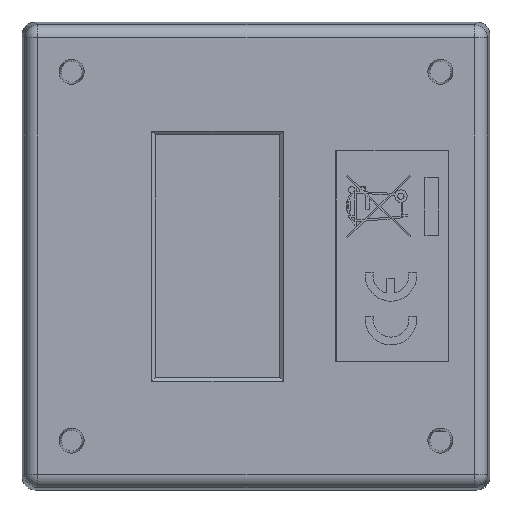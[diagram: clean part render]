
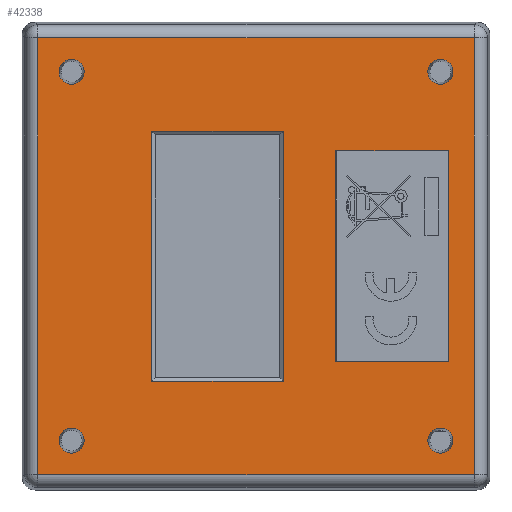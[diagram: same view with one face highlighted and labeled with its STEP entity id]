
A CAD part, front view. The second image highlights one B-rep face of the part: STEP entity #42338.
In plain terms, the highlighted planar face has unit normal (0, -1, 0) as drawn and (0, 0, -1) by its records, which use the part's own axes.
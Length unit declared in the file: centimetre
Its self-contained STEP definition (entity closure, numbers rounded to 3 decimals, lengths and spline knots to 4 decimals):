
#20597=VECTOR('',#46143,1.);
#20600=VECTOR('',#46147,1.);
#20603=VECTOR('',#46151,1.);
#20606=VECTOR('',#46155,1.);
#20736=VECTOR('',#46349,1.);
#20739=VECTOR('',#46353,1.);
#20742=VECTOR('',#46357,1.);
#20745=VECTOR('',#46361,1.);
#20906=VECTOR('',#46594,1.);
#20907=VECTOR('',#46595,1.);
#20908=VECTOR('',#46596,1.);
#20909=VECTOR('',#46597,1.);
#23383=LINE('',#52625,#20597);
#23386=LINE('',#52631,#20600);
#23389=LINE('',#52637,#20603);
#23392=LINE('',#52642,#20606);
#23522=LINE('',#52985,#20736);
#23525=LINE('',#52991,#20739);
#23528=LINE('',#52997,#20742);
#23531=LINE('',#53002,#20745);
#23692=LINE('',#54077,#20906);
#23693=LINE('',#54080,#20907);
#23694=LINE('',#54082,#20908);
#23695=LINE('',#54084,#20909);
#25972=PLANE('',#43623);
#27093=VERTEX_POINT('',#52624);
#27094=VERTEX_POINT('',#52626);
#27096=VERTEX_POINT('',#52632);
#27098=VERTEX_POINT('',#52638);
#27193=VERTEX_POINT('',#52984);
#27194=VERTEX_POINT('',#52986);
#27196=VERTEX_POINT('',#52992);
#27198=VERTEX_POINT('',#52998);
#27319=VERTEX_POINT('',#54070);
#27320=VERTEX_POINT('',#54072);
#27321=VERTEX_POINT('',#54074);
#27322=VERTEX_POINT('',#54076);
#27323=VERTEX_POINT('',#54078);
#27324=VERTEX_POINT('',#54079);
#27325=VERTEX_POINT('',#54081);
#27326=VERTEX_POINT('',#54083);
#28962=CIRCLE('',#43624,0.1209);
#28963=CIRCLE('',#43625,0.1209);
#28964=CIRCLE('',#43626,0.1209);
#28965=CIRCLE('',#43627,0.1209);
#29764=EDGE_CURVE('',#27094,#27093,#23383,.T.);
#29767=EDGE_CURVE('',#27096,#27094,#23386,.T.);
#29770=EDGE_CURVE('',#27098,#27096,#23389,.T.);
#29773=EDGE_CURVE('',#27093,#27098,#23392,.T.);
#29913=EDGE_CURVE('',#27194,#27193,#23522,.F.);
#29916=EDGE_CURVE('',#27196,#27194,#23525,.F.);
#29919=EDGE_CURVE('',#27198,#27196,#23528,.F.);
#29922=EDGE_CURVE('',#27193,#27198,#23531,.F.);
#30103=EDGE_CURVE('',#27319,#27319,#28962,.F.);
#30104=EDGE_CURVE('',#27320,#27320,#28963,.F.);
#30105=EDGE_CURVE('',#27321,#27321,#28964,.F.);
#30106=EDGE_CURVE('',#27322,#27322,#28965,.F.);
#30107=EDGE_CURVE('',#27323,#27324,#23692,.T.);
#30108=EDGE_CURVE('',#27325,#27323,#23693,.T.);
#30109=EDGE_CURVE('',#27326,#27325,#23694,.T.);
#30110=EDGE_CURVE('',#27324,#27326,#23695,.T.);
#34235=ORIENTED_EDGE('',*,*,#29764,.T.);
#34236=ORIENTED_EDGE('',*,*,#29773,.T.);
#34237=ORIENTED_EDGE('',*,*,#29770,.T.);
#34238=ORIENTED_EDGE('',*,*,#29767,.T.);
#34239=ORIENTED_EDGE('',*,*,#30103,.T.);
#34240=ORIENTED_EDGE('',*,*,#30104,.T.);
#34241=ORIENTED_EDGE('',*,*,#30105,.T.);
#34242=ORIENTED_EDGE('',*,*,#30106,.T.);
#34243=ORIENTED_EDGE('',*,*,#30107,.F.);
#34244=ORIENTED_EDGE('',*,*,#30108,.F.);
#34245=ORIENTED_EDGE('',*,*,#30109,.F.);
#34246=ORIENTED_EDGE('',*,*,#30110,.F.);
#34247=ORIENTED_EDGE('',*,*,#29913,.T.);
#34248=ORIENTED_EDGE('',*,*,#29922,.T.);
#34249=ORIENTED_EDGE('',*,*,#29919,.T.);
#34250=ORIENTED_EDGE('',*,*,#29916,.T.);
#39538=EDGE_LOOP('',(#34235,#34236,#34237,#34238));
#39539=EDGE_LOOP('',(#34239));
#39540=EDGE_LOOP('',(#34240));
#39541=EDGE_LOOP('',(#34241));
#39542=EDGE_LOOP('',(#34242));
#39543=EDGE_LOOP('',(#34243,#34244,#34245,#34246));
#39544=EDGE_LOOP('',(#34247,#34248,#34249,#34250));
#40957=FACE_BOUND('',#39538,.T.);
#40958=FACE_BOUND('',#39539,.T.);
#40959=FACE_BOUND('',#39540,.T.);
#40960=FACE_BOUND('',#39541,.T.);
#40961=FACE_BOUND('',#39542,.T.);
#40962=FACE_BOUND('',#39543,.T.);
#40963=FACE_BOUND('',#39544,.T.);
#42338=ADVANCED_FACE('',(#40957,#40958,#40959,#40960,#40961,#40962,#40963),
#25972,.F.);
#43623=AXIS2_PLACEMENT_3D('',#54068,#46585,$);
#43624=AXIS2_PLACEMENT_3D('',#54069,#46586,#46587);
#43625=AXIS2_PLACEMENT_3D('',#54071,#46588,#46589);
#43626=AXIS2_PLACEMENT_3D('',#54073,#46590,#46591);
#43627=AXIS2_PLACEMENT_3D('',#54075,#46592,#46593);
#46143=DIRECTION('',(1.,0.,0.));
#46147=DIRECTION('',(0.,-1.,0.));
#46151=DIRECTION('',(-1.,0.,0.));
#46155=DIRECTION('',(0.,1.,0.));
#46349=DIRECTION('',(-1.,0.,0.));
#46353=DIRECTION('',(0.,1.,0.));
#46357=DIRECTION('',(1.,0.,0.));
#46361=DIRECTION('',(0.,-1.,0.));
#46585=DIRECTION('',(0.,0.,1.));
#46586=DIRECTION('',(0.,0.,-1.));
#46587=DIRECTION('',(-0.121,0.,0.));
#46588=DIRECTION('',(0.,0.,-1.));
#46589=DIRECTION('',(-0.121,0.,0.));
#46590=DIRECTION('',(0.,0.,-1.));
#46591=DIRECTION('',(-0.121,0.,0.));
#46592=DIRECTION('',(0.,0.,-1.));
#46593=DIRECTION('',(-0.121,0.,0.));
#46594=DIRECTION('',(-1.,0.,0.));
#46595=DIRECTION('',(0.,1.,0.));
#46596=DIRECTION('',(1.,0.,0.));
#46597=DIRECTION('',(0.,-1.,0.));
#52624=CARTESIAN_POINT('',(1.2065,-0.2639,-0.0032));
#52625=CARTESIAN_POINT('',(0.6033,-0.2639,-0.0032));
#52626=CARTESIAN_POINT('',(-1.2065,-0.2639,-0.0032));
#52631=CARTESIAN_POINT('',(-1.2065,-0.1319,-0.0032));
#52632=CARTESIAN_POINT('',(-1.2065,1.0061,-0.0032));
#52637=CARTESIAN_POINT('',(-0.6032,1.0061,-0.0032));
#52638=CARTESIAN_POINT('',(1.2065,1.0061,-0.0032));
#52642=CARTESIAN_POINT('',(1.2065,0.5031,-0.0032));
#52984=CARTESIAN_POINT('',(1.0178,-1.8531,-0.0032));
#52985=CARTESIAN_POINT('',(0.,-1.8531,-0.0032));
#52986=CARTESIAN_POINT('',(-1.0178,-1.8531,-0.0032));
#52991=CARTESIAN_POINT('',(-1.0178,-0.3279,-0.0032));
#52992=CARTESIAN_POINT('',(-1.0178,-0.7701,-0.0032));
#52997=CARTESIAN_POINT('',(0.,-0.7701,-0.0032));
#52998=CARTESIAN_POINT('',(1.0178,-0.7701,-0.0032));
#53002=CARTESIAN_POINT('',(1.0178,-0.3279,-0.0032));
#54068=CARTESIAN_POINT('',(0.,0.,-0.0032));
#54069=CARTESIAN_POINT('',(1.778,1.778,-0.0032));
#54070=CARTESIAN_POINT('',(1.8989,1.778,-0.0032));
#54071=CARTESIAN_POINT('',(1.778,-1.778,-0.0032));
#54072=CARTESIAN_POINT('',(1.8989,-1.778,-0.0032));
#54073=CARTESIAN_POINT('',(-1.778,-1.778,-0.0032));
#54074=CARTESIAN_POINT('',(-1.6571,-1.778,-0.0032));
#54075=CARTESIAN_POINT('',(-1.778,1.778,-0.0032));
#54076=CARTESIAN_POINT('',(-1.6571,1.778,-0.0032));
#54077=CARTESIAN_POINT('',(0.,2.1054,-0.0032));
#54078=CARTESIAN_POINT('',(2.1054,2.1054,-0.0032));
#54079=CARTESIAN_POINT('',(-2.1054,2.1054,-0.0032));
#54080=CARTESIAN_POINT('',(2.1054,0.,-0.0032));
#54081=CARTESIAN_POINT('',(2.1054,-2.1054,-0.0032));
#54082=CARTESIAN_POINT('',(0.,-2.1054,-0.0032));
#54083=CARTESIAN_POINT('',(-2.1054,-2.1054,-0.0032));
#54084=CARTESIAN_POINT('',(-2.1054,0.,-0.0032));
